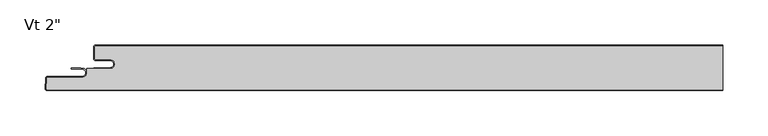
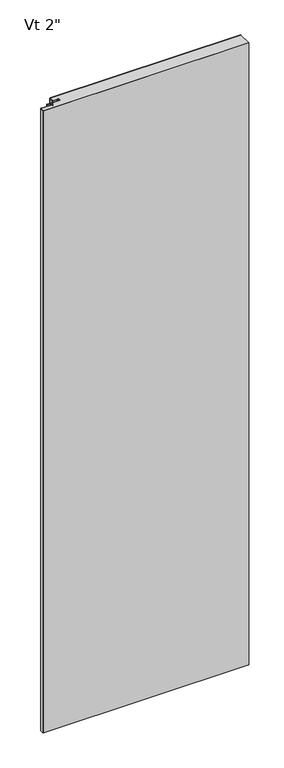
"""IFC4 building model written with IfcOpenShell, lengths in millimetres: plate geometry."""

from ifc_helpers import new_model, si_unit, point, frame_2d, origin, origin_with_axes, place, context, project, spatial, polyline, circle_curve, trimmed, segment, composite_curve, outline, extrude, source, transform, mapped, element, save


def plate_2ae8091a(model_context):
    return source(origin(), model_context, "Body", "SweptSolid", [
        extrude(outline(composite_curve([segment(polyline([(-345.7249998, -1.0), (348.8999998, -1.0), (348.8999998, -49.8), (-399.5719359, -49.8)]), True, "CONTINUOUS"), segment(trimmed(circle_curve(frame_2d((-399.5719359, -48.41875)), 1.38125), [point((-399.5719359, -49.8))], [point((-400.951293, -48.346461))], False, "CARTESIAN"), True, "CONTINUOUS"), segment(polyline([(-400.951293, -48.346461), (-400.3689115, -37.233961)]), True, "CONTINUOUS"), segment(trimmed(circle_curve(frame_2d((-398.9895545, -37.30625)), 1.38125), [point((-400.3689115, -37.233961))], [point((-398.9895545, -35.925))], False, "CARTESIAN"), True, "CONTINUOUS"), segment(polyline([(-398.9895545, -35.925), (-360.8062498, -35.925)]), True, "CONTINUOUS"), segment(trimmed(circle_curve(frame_2d((-360.8062498, -30.95625)), 4.96875), [point((-360.8062498, -35.925))], [point((-355.8374998, -30.95625))], True, "CARTESIAN"), True, "CONTINUOUS"), segment(polyline([(-355.8374998, -30.95625), (-355.8374998, -26.4), (-329.8499998, -26.4)]), True, "CONTINUOUS"), segment(trimmed(circle_curve(frame_2d((-329.8499998, -21.43125)), 4.96875), [point((-329.8499998, -26.4))], [point((-329.8499998, -16.4625))], True, "CARTESIAN"), True, "CONTINUOUS"), segment(polyline([(-329.8499998, -16.4625), (-345.7249998, -16.4625)]), True, "CONTINUOUS"), segment(trimmed(circle_curve(frame_2d((-345.7249998, -15.08125)), 1.38125), [point((-345.7249998, -16.4625))], [point((-347.1062498, -15.08125))], False, "CARTESIAN"), True, "CONTINUOUS"), segment(polyline([(-347.1062498, -15.08125), (-347.1062498, -2.38125)]), True, "CONTINUOUS"), segment(trimmed(circle_curve(frame_2d((-345.7249998, -2.38125)), 1.38125), [point((-347.1062498, -2.38125))], [point((-345.7249998, -1.0))], False, "CARTESIAN"), True, "CONTINUOUS")], self_intersect=False)), origin_with_axes(), (0.0, 0.0, 1.0), 2400.0),
        extrude(outline(composite_curve([segment(polyline([(-348.1062498, -25.4), (-329.8499998, -25.4)]), True, "CONTINUOUS"), segment(trimmed(circle_curve(frame_2d((-329.8499998, -21.43125)), 3.96875), [point((-329.8499998, -25.4))], [point((-329.8499998, -17.4625))], True, "CARTESIAN"), True, "CONTINUOUS"), segment(polyline([(-329.8499998, -17.4625), (-345.7249998, -17.4625)]), True, "CONTINUOUS"), segment(trimmed(circle_curve(frame_2d((-345.7249998, -15.08125)), 2.38125), [point((-345.7249998, -17.4625))], [point((-348.1062498, -15.08125))], False, "CARTESIAN"), True, "CONTINUOUS"), segment(polyline([(-348.1062498, -15.08125), (-348.1062498, -2.38125)]), True, "CONTINUOUS"), segment(trimmed(circle_curve(frame_2d((-345.7249998, -2.38125)), 2.38125), [point((-348.1062498, -2.38125))], [point((-345.7249998, 0.0))], False, "CARTESIAN"), True, "CONTINUOUS"), segment(polyline([(-345.7249998, 0.0), (348.8999998, 0.0), (348.8999998, -1.0), (-345.7249998, -1.0)]), True, "CONTINUOUS"), segment(trimmed(circle_curve(frame_2d((-345.7249998, -2.38125)), 1.38125), [point((-345.7249998, -1.0))], [point((-347.1062498, -2.38125))], True, "CARTESIAN"), True, "CONTINUOUS"), segment(polyline([(-347.1062498, -2.38125), (-347.1062498, -15.08125)]), True, "CONTINUOUS"), segment(trimmed(circle_curve(frame_2d((-345.7249998, -15.08125)), 1.38125), [point((-347.1062498, -15.08125))], [point((-345.7249998, -16.4625))], True, "CARTESIAN"), True, "CONTINUOUS"), segment(polyline([(-345.7249998, -16.4625), (-329.8499998, -16.4625)]), True, "CONTINUOUS"), segment(trimmed(circle_curve(frame_2d((-329.8499998, -21.43125)), 4.96875), [point((-329.8499998, -16.4625))], [point((-329.8499998, -26.4))], False, "CARTESIAN"), True, "CONTINUOUS"), segment(polyline([(-329.8499998, -26.4), (-348.1062498, -26.4), (-348.1062498, -25.4)]), True, "CONTINUOUS")], self_intersect=False)), origin_with_axes(), (0.0, 0.0, 1.0), 2400.0),
        extrude(outline(composite_curve([segment(polyline([(-372.1314548, -25.4), (-362.4080173, -25.4), (-362.4080173, -26.19375), (-360.8205173, -25.9875)]), True, "CONTINUOUS"), segment(trimmed(circle_curve(frame_2d((-360.8205173, -30.95625)), 4.96875), [point((-360.8205173, -25.9875))], [point((-360.8205173, -35.925))], False, "CARTESIAN"), True, "CONTINUOUS"), segment(polyline([(-360.8205173, -35.925), (-399.0038219, -35.925)]), True, "CONTINUOUS"), segment(trimmed(circle_curve(frame_2d((-399.0038219, -37.30625)), 1.38125), [point((-399.0038219, -35.925))], [point((-400.383179, -37.233961))], True, "CARTESIAN"), True, "CONTINUOUS"), segment(polyline([(-400.383179, -37.233961), (-400.9655604, -48.346461)]), True, "CONTINUOUS"), segment(trimmed(circle_curve(frame_2d((-399.5862034, -48.41875)), 1.38125), [point((-400.9655604, -48.346461))], [point((-399.5862034, -49.8))], True, "CARTESIAN"), True, "CONTINUOUS"), segment(polyline([(-399.5862034, -49.8), (348.8999998, -49.8), (348.8999998, -50.8), (-399.5862034, -50.8)]), True, "CONTINUOUS"), segment(trimmed(circle_curve(frame_2d((-399.5862034, -48.41875)), 2.38125), [point((-399.5862034, -50.8))], [point((-401.9641899, -48.294125))], False, "CARTESIAN"), True, "CONTINUOUS"), segment(polyline([(-401.9641899, -48.294125), (-401.3818085, -37.181625)]), True, "CONTINUOUS"), segment(trimmed(circle_curve(frame_2d((-399.0038219, -37.30625)), 2.38125), [point((-401.3818085, -37.181625))], [point((-399.0038219, -34.925))], False, "CARTESIAN"), True, "CONTINUOUS"), segment(polyline([(-399.0038219, -34.925), (-360.8205173, -34.925)]), True, "CONTINUOUS"), segment(trimmed(circle_curve(frame_2d((-360.8205173, -30.95625)), 3.96875), [point((-360.8205173, -34.925))], [point((-360.8205173, -26.9875))], True, "CARTESIAN"), True, "CONTINUOUS"), segment(polyline([(-360.8205173, -26.9875), (-372.1314548, -26.9875)]), True, "CONTINUOUS"), segment(trimmed(circle_curve(frame_2d((-372.1314548, -26.19375)), 0.79375), [point((-372.1314548, -26.9875))], [point((-372.1314548, -25.4))], False, "CARTESIAN"), True, "CONTINUOUS")], self_intersect=False)), origin_with_axes(), (0.0, 0.0, 1.0), 2400.0),
    ])


if __name__ == "__main__":
    model = new_model("IFC4")
    model_context = context("Model", 3, world=origin())
    ifc_project = project(units=[si_unit("LENGTHUNIT", "METRE", prefix="MILLI")], contexts=[model_context])
    site = spatial("IfcSite", under=ifc_project)
    building = spatial("IfcBuilding", under=site)
    placement = place(None, origin())
    plate_shape = plate_2ae8091a(model_context)
    element("IfcPlate", 1, ObjectType="KIP-30-DWTR-R19-CP-Vt-F : Vt 2\"", at=placement, inside=building, context=model_context, shape_type="MappedRepresentation", body=[
        mapped(plate_shape, transform((0.0, 0.0, 0.0), x_axis=(1.0, 0.0, 0.0), y_axis=(0.0, 1.0, 0.0), z_axis=(0.0, 0.0, 1.0))),
    ])
    save(model, "model.ifc")
